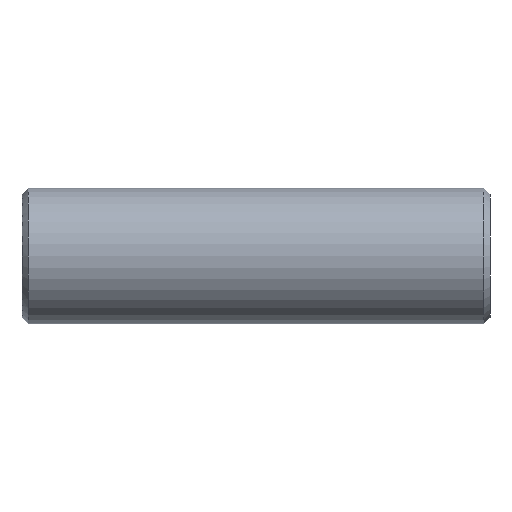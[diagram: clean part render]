
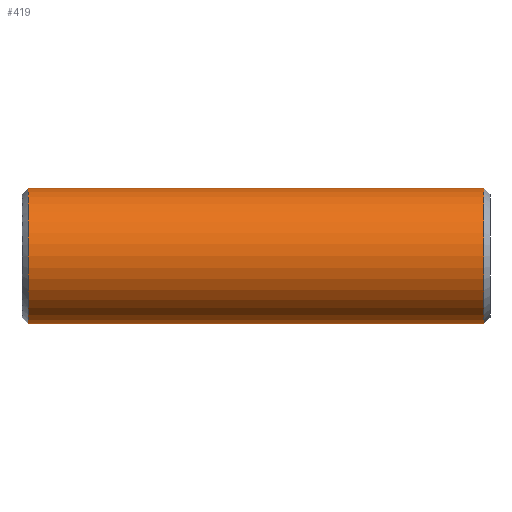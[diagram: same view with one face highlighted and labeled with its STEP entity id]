
A CAD part, front view. The second image highlights one B-rep face of the part: STEP entity #419.
In plain terms, the highlighted cylindrical face has radius 11 mm (diameter 22 mm), a partial arc.
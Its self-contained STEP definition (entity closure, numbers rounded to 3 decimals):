
#231=CARTESIAN_POINT('Vertex',(1.,0.,-11.)) ;
#238=CARTESIAN_POINT('Vertex',(1.,0.,11.)) ;
#267=CARTESIAN_POINT('Axis2P3D Location',(1.,0.,0.)) ;
#271=CARTESIAN_POINT('Vertex',(1.,-11.,0.)) ;
#274=CARTESIAN_POINT('Axis2P3D Location',(1.,0.,0.)) ;
#359=CARTESIAN_POINT('Line Origine',(76.,0.,11.)) ;
#363=CARTESIAN_POINT('Vertex',(75.,0.,11.)) ;
#377=CARTESIAN_POINT('Vertex',(75.,0.,-11.)) ;
#380=CARTESIAN_POINT('Line Origine',(76.,0.,-11.)) ;
#394=CARTESIAN_POINT('Axis2P3D Location',(76.,0.,0.)) ;
#399=CARTESIAN_POINT('Axis2P3D Location',(75.,0.,0.)) ;
#403=CARTESIAN_POINT('Vertex',(75.,-11.,0.)) ;
#406=CARTESIAN_POINT('Axis2P3D Location',(75.,0.,0.)) ;
#268=DIRECTION('Axis2P3D Direction',(1.,0.,-0.)) ;
#275=DIRECTION('Axis2P3D Direction',(1.,0.,-0.)) ;
#360=DIRECTION('Vector Direction',(-1.,0.,0.)) ;
#381=DIRECTION('Vector Direction',(-1.,0.,0.)) ;
#395=DIRECTION('Axis2P3D Direction',(-1.,-0.,-0.)) ;
#396=DIRECTION('Axis2P3D XDirection',(0.,0.,-1.)) ;
#400=DIRECTION('Axis2P3D Direction',(-1.,-0.,-0.)) ;
#407=DIRECTION('Axis2P3D Direction',(-1.,-0.,-0.)) ;
#269=AXIS2_PLACEMENT_3D('Circle Axis2P3D',#267,#268,$) ;
#276=AXIS2_PLACEMENT_3D('Circle Axis2P3D',#274,#275,$) ;
#397=AXIS2_PLACEMENT_3D('Cylinder Axis2P3D',#394,#395,#396) ;
#401=AXIS2_PLACEMENT_3D('Circle Axis2P3D',#399,#400,$) ;
#408=AXIS2_PLACEMENT_3D('Circle Axis2P3D',#406,#407,$) ;
#412=ORIENTED_EDGE('',*,*,#384,.T.) ;
#413=ORIENTED_EDGE('',*,*,#405,.F.) ;
#414=ORIENTED_EDGE('',*,*,#410,.F.) ;
#415=ORIENTED_EDGE('',*,*,#365,.T.) ;
#416=ORIENTED_EDGE('',*,*,#278,.T.) ;
#417=ORIENTED_EDGE('',*,*,#273,.T.) ;
#361=VECTOR('Line Direction',#360,1.) ;
#382=VECTOR('Line Direction',#381,1.) ;
#419=ADVANCED_FACE('352-16X76',(#418),#398,.T.) ;
#270=CIRCLE('generated circle',#269,11.) ;
#277=CIRCLE('generated circle',#276,11.) ;
#402=CIRCLE('generated circle',#401,11.) ;
#409=CIRCLE('generated circle',#408,11.) ;
#398=CYLINDRICAL_SURFACE('generated cylinder',#397,11.) ;
#273=EDGE_CURVE('',#272,#232,#270,.T.) ;
#278=EDGE_CURVE('',#239,#272,#277,.T.) ;
#365=EDGE_CURVE('',#364,#239,#362,.T.) ;
#384=EDGE_CURVE('',#232,#378,#383,.F.) ;
#405=EDGE_CURVE('',#404,#378,#402,.F.) ;
#410=EDGE_CURVE('',#364,#404,#409,.F.) ;
#411=EDGE_LOOP('',(#412,#413,#414,#415,#416,#417)) ;
#418=FACE_OUTER_BOUND('',#411,.T.) ;
#362=LINE('Line',#359,#361) ;
#383=LINE('Line',#380,#382) ;
#232=VERTEX_POINT('',#231) ;
#239=VERTEX_POINT('',#238) ;
#272=VERTEX_POINT('',#271) ;
#364=VERTEX_POINT('',#363) ;
#378=VERTEX_POINT('',#377) ;
#404=VERTEX_POINT('',#403) ;
